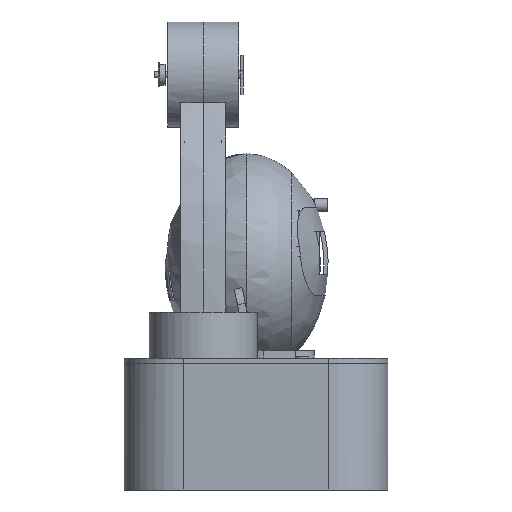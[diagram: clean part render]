
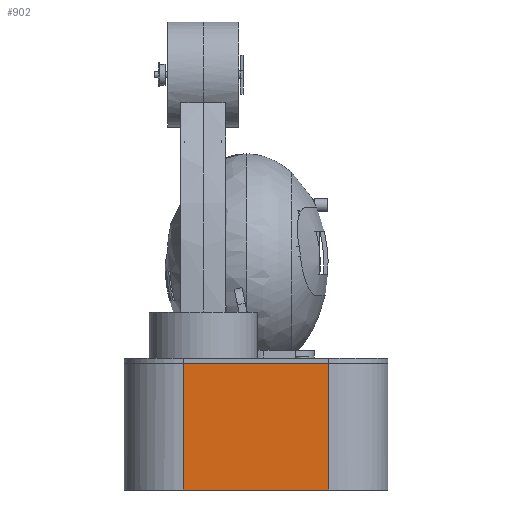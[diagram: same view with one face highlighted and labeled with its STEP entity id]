
A CAD part, left-side view. The second image highlights one B-rep face of the part: STEP entity #902.
In plain terms, the highlighted planar face has unit normal (-1, 0, 0).
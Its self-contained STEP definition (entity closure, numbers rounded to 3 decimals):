
#11=DIRECTION('',(0.0,0.0,1.0));
#176=DIRECTION('',(0.0,1.0,0.0));
#245=DIRECTION('',(0.0,-1.0,0.0));
#332=DIRECTION('',(-1.0,0.0,0.0));
#475=VECTOR('',#176,110.0);
#660=VECTOR('',#11,96.0);
#672=CARTESIAN_POINT('',(-320.0,-100.0,0.0));
#770=CARTESIAN_POINT('',(-320.0,-55.0,0.0));
#771=LINE('',#770,#475);
#772=CARTESIAN_POINT('',(-320.0,55.0,0.0));
#773=VERTEX_POINT('',#772);
#774=VERTEX_POINT('',#770);
#775=EDGE_CURVE('',#774,#773,#771,.T.);
#795=CARTESIAN_POINT('',(-320.0,55.0,96.0));
#799=VERTEX_POINT('',#795);
#802=LINE('',#772,#660);
#803=EDGE_CURVE('',#773,#799,#802,.T.);
#834=LINE('',#770,#660);
#835=CARTESIAN_POINT('',(-320.0,-55.0,96.0));
#836=VERTEX_POINT('',#835);
#837=EDGE_CURVE('',#774,#836,#834,.T.);
#873=LINE('',#835,#475);
#874=EDGE_CURVE('',#836,#799,#873,.T.);
#894=AXIS2_PLACEMENT_3D('',#672,#332,#245);
#895=PLANE('',#894);
#896=ORIENTED_EDGE('',*,*,#874,.T.);
#897=ORIENTED_EDGE('',*,*,#837,.T.);
#898=ORIENTED_EDGE('',*,*,#775,.F.);
#899=ORIENTED_EDGE('',*,*,#803,.F.);
#900=EDGE_LOOP('',(#899,#898,#897,#896));
#901=FACE_BOUND('',#900,.T.);
#902=ADVANCED_FACE('',(#901),#895,.T.);
